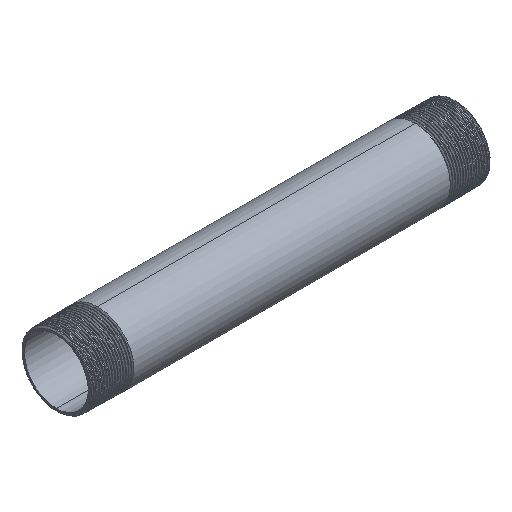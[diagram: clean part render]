
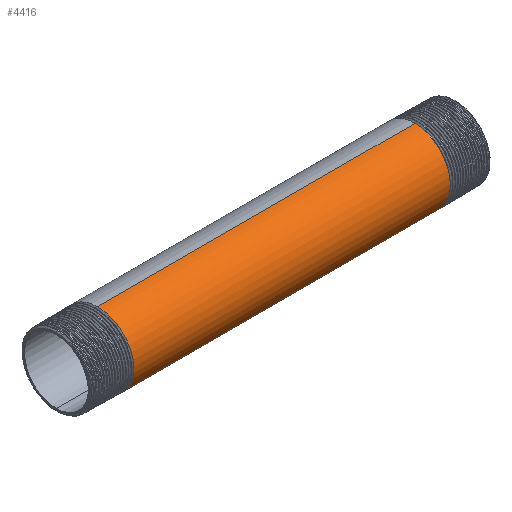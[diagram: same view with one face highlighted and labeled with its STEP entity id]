
A CAD part, isometric view. The second image highlights one B-rep face of the part: STEP entity #4416.
In plain terms, the highlighted cylindrical face has radius 13.45 mm (diameter 26.9 mm), a partial arc.
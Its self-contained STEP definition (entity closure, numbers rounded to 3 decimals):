
#37 = EDGE_CURVE ( 'NONE', #11716, #3495, #6259, .T. ) ;
#548 = DIRECTION ( 'NONE',  ( -1., 0., 0. ) ) ;
#577 = CARTESIAN_POINT ( 'NONE',  ( 59.125, 0., -13.45 ) ) ;
#592 = CARTESIAN_POINT ( 'NONE',  ( -59.313, -13.45, -5.571 ) ) ;
#1076 =( BOUNDED_CURVE ( )  B_SPLINE_CURVE ( 2, ( #577, #12068, #13017, #11049, #4706, #11935, #5858, #1790, #10791 ),
 .UNSPECIFIED., .F., .T. ) 
 B_SPLINE_CURVE_WITH_KNOTS ( ( 3, 2, 2, 2, 3 ),
 ( 0., 0.006, 0.013, 0.019, 0.025 ),
 .UNSPECIFIED. ) 
 CURVE ( )  GEOMETRIC_REPRESENTATION_ITEM ( )  RATIONAL_B_SPLINE_CURVE ( ( 1., 0.924, 1., 0.924, 1., 0.924, 1., 0.924, 1. ) ) 
 REPRESENTATION_ITEM ( '' )  );
#1225 = CARTESIAN_POINT ( 'NONE',  ( 59.125, 0., -13.45 ) ) ;
#1263 = DIRECTION ( 'NONE',  ( 0., 0., 1. ) ) ;
#1477 = CARTESIAN_POINT ( 'NONE',  ( -59.5, -9.511, 9.511 ) ) ;
#1604 = CARTESIAN_POINT ( 'NONE',  ( -59.25, -9.511, -9.511 ) ) ;
#1790 = CARTESIAN_POINT ( 'NONE',  ( 59.563, -5.571, 13.45 ) ) ;
#1890 = AXIS2_PLACEMENT_3D ( 'NONE', #10517, #4235, #1263 ) ;
#2068 = ORIENTED_EDGE ( 'NONE', *, *, #11731, .T. ) ;
#2420 = CARTESIAN_POINT ( 'NONE',  ( -59.438, -13.45, 5.571 ) ) ;
#2622 = ORIENTED_EDGE ( 'NONE', *, *, #4340, .F. ) ;
#3431 = CARTESIAN_POINT ( 'NONE',  ( -59.375, -13.45, 0. ) ) ;
#3495 = VERTEX_POINT ( 'NONE', #6322 ) ;
#3976 = VERTEX_POINT ( 'NONE', #4892 ) ;
#4047 = LINE ( 'NONE', #11075, #6617 ) ;
#4235 = DIRECTION ( 'NONE',  ( -1., 0., 0. ) ) ;
#4340 = EDGE_CURVE ( 'NONE', #5481, #11716, #8746, .T. ) ;
#4416 = ADVANCED_FACE ( 'NONE', ( #8368 ), #6413, .T. ) ;
#4706 = CARTESIAN_POINT ( 'NONE',  ( 59.375, -13.45, 0. ) ) ;
#4892 = CARTESIAN_POINT ( 'NONE',  ( 59.625, 0., 13.45 ) ) ;
#4935 = CARTESIAN_POINT ( 'NONE',  ( -59.125, 0., -13.45 ) ) ;
#5216 = EDGE_LOOP ( 'NONE', ( #2622, #13172, #2068, #7752 ) ) ;
#5481 = VERTEX_POINT ( 'NONE', #1225 ) ;
#5585 = VECTOR ( 'NONE', #548, 1000. ) ;
#5760 = CARTESIAN_POINT ( 'NONE',  ( -149.494, 0., -13.45 ) ) ;
#5858 = CARTESIAN_POINT ( 'NONE',  ( 59.5, -9.511, 9.511 ) ) ;
#6259 =( BOUNDED_CURVE ( )  B_SPLINE_CURVE ( 2, ( #8590, #12698, #1604, #592, #3431, #2420, #1477, #6629, #12896 ),
 .UNSPECIFIED., .F., .F. ) 
 B_SPLINE_CURVE_WITH_KNOTS ( ( 3, 2, 2, 2, 3 ),
 ( 0., 0.006, 0.013, 0.019, 0.025 ),
 .UNSPECIFIED. ) 
 CURVE ( )  GEOMETRIC_REPRESENTATION_ITEM ( )  RATIONAL_B_SPLINE_CURVE ( ( 1., 0.924, 1., 0.924, 1., 0.924, 1., 0.924, 1. ) ) 
 REPRESENTATION_ITEM ( '' )  );
#6322 = CARTESIAN_POINT ( 'NONE',  ( -59.625, 0., 13.45 ) ) ;
#6413 = CYLINDRICAL_SURFACE ( 'NONE', #1890, 13.45 ) ;
#6617 = VECTOR ( 'NONE', #13301, 1000. ) ;
#6629 = CARTESIAN_POINT ( 'NONE',  ( -59.563, -5.571, 13.45 ) ) ;
#7752 = ORIENTED_EDGE ( 'NONE', *, *, #37, .F. ) ;
#8368 = FACE_OUTER_BOUND ( 'NONE', #5216, .T. ) ;
#8590 = CARTESIAN_POINT ( 'NONE',  ( -59.125, 0., -13.45 ) ) ;
#8746 = LINE ( 'NONE', #5760, #5585 ) ;
#10517 = CARTESIAN_POINT ( 'NONE',  ( -149.494, 0., 0. ) ) ;
#10791 = CARTESIAN_POINT ( 'NONE',  ( 59.625, 0., 13.45 ) ) ;
#11049 = CARTESIAN_POINT ( 'NONE',  ( 59.313, -13.45, -5.571 ) ) ;
#11075 = CARTESIAN_POINT ( 'NONE',  ( -149.494, 0., 13.45 ) ) ;
#11716 = VERTEX_POINT ( 'NONE', #4935 ) ;
#11731 = EDGE_CURVE ( 'NONE', #3976, #3495, #4047, .T. ) ;
#11935 = CARTESIAN_POINT ( 'NONE',  ( 59.438, -13.45, 5.571 ) ) ;
#12068 = CARTESIAN_POINT ( 'NONE',  ( 59.188, -5.571, -13.45 ) ) ;
#12698 = CARTESIAN_POINT ( 'NONE',  ( -59.188, -5.571, -13.45 ) ) ;
#12896 = CARTESIAN_POINT ( 'NONE',  ( -59.625, 0., 13.45 ) ) ;
#13017 = CARTESIAN_POINT ( 'NONE',  ( 59.25, -9.511, -9.511 ) ) ;
#13172 = ORIENTED_EDGE ( 'NONE', *, *, #13340, .T. ) ;
#13301 = DIRECTION ( 'NONE',  ( -1., 0., 0. ) ) ;
#13340 = EDGE_CURVE ( 'NONE', #5481, #3976, #1076, .T. ) ;
